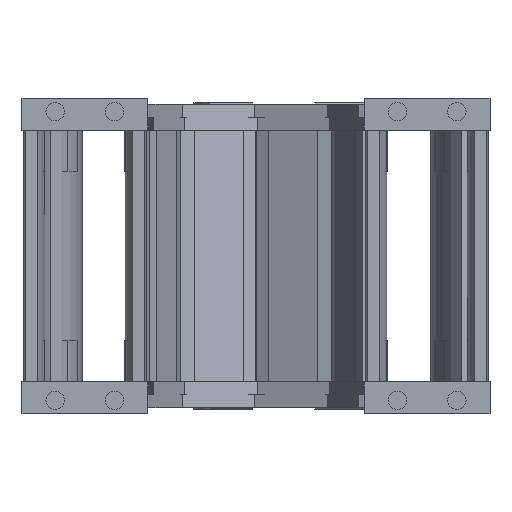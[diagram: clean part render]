
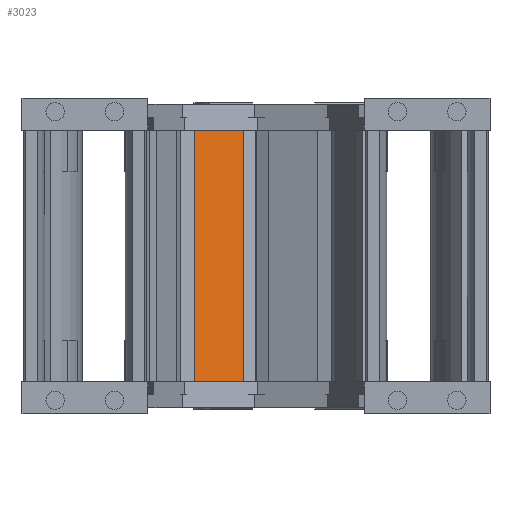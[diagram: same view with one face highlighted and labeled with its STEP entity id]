
A CAD part, left-side view. The second image highlights one B-rep face of the part: STEP entity #3023.
In plain terms, the highlighted planar face has unit normal (-0.925, -0.381, 0) as drawn and (0, 1, 0) by its records, which use the part's own axes.
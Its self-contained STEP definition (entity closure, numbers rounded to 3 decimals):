
#2766=DIRECTION('',(1.,0.,0.));
#2767=VECTOR('',#2766,23.);
#2768=CARTESIAN_POINT('',(-11.5,3.,97.8));
#2769=LINE('',#2768,#2767);
#2815=DIRECTION('',(0.,0.,-1.));
#2816=VECTOR('',#2815,110.3);
#2817=CARTESIAN_POINT('',(11.5,3.,97.8));
#2818=LINE('',#2817,#2816);
#2837=DIRECTION('',(-1.,0.,0.));
#2838=VECTOR('',#2837,23.);
#2839=CARTESIAN_POINT('',(11.5,3.,-12.5));
#2840=LINE('',#2839,#2838);
#2851=DIRECTION('',(0.,0.,-1.));
#2852=VECTOR('',#2851,110.3);
#2853=CARTESIAN_POINT('',(-11.5,3.,97.8));
#2854=LINE('',#2853,#2852);
#2878=CARTESIAN_POINT('',(11.5,3.,97.8));
#2879=VERTEX_POINT('',#2878);
#2882=CARTESIAN_POINT('',(-11.5,3.,97.8));
#2883=VERTEX_POINT('',#2882);
#2890=CARTESIAN_POINT('',(11.5,3.,-12.5));
#2891=VERTEX_POINT('',#2890);
#2892=CARTESIAN_POINT('',(-11.5,3.,-12.5));
#2893=VERTEX_POINT('',#2892);
#3011=CARTESIAN_POINT('',(15.5,3.,47.8));
#3012=DIRECTION('',(0.,1.,0.));
#3013=DIRECTION('',(-1.,0.,0.));
#3014=AXIS2_PLACEMENT_3D('',#3011,#3012,#3013);
#3015=PLANE('',#3014);
#3017=ORIENTED_EDGE('',*,*,#3016,.T.);
#3018=ORIENTED_EDGE('',*,*,#2995,.F.);
#3019=ORIENTED_EDGE('',*,*,#2975,.F.);
#3020=ORIENTED_EDGE('',*,*,#2907,.F.);
#3021=EDGE_LOOP('',(#3017,#3018,#3019,#3020));
#3022=FACE_OUTER_BOUND('',#3021,.F.);
#3023=ADVANCED_FACE('',(#3022),#3015,.T.);
#2907=EDGE_CURVE('',#2883,#2879,#2769,.T.);
#2975=EDGE_CURVE('',#2879,#2891,#2818,.T.);
#2995=EDGE_CURVE('',#2891,#2893,#2840,.T.);
#3016=EDGE_CURVE('',#2883,#2893,#2854,.T.);
